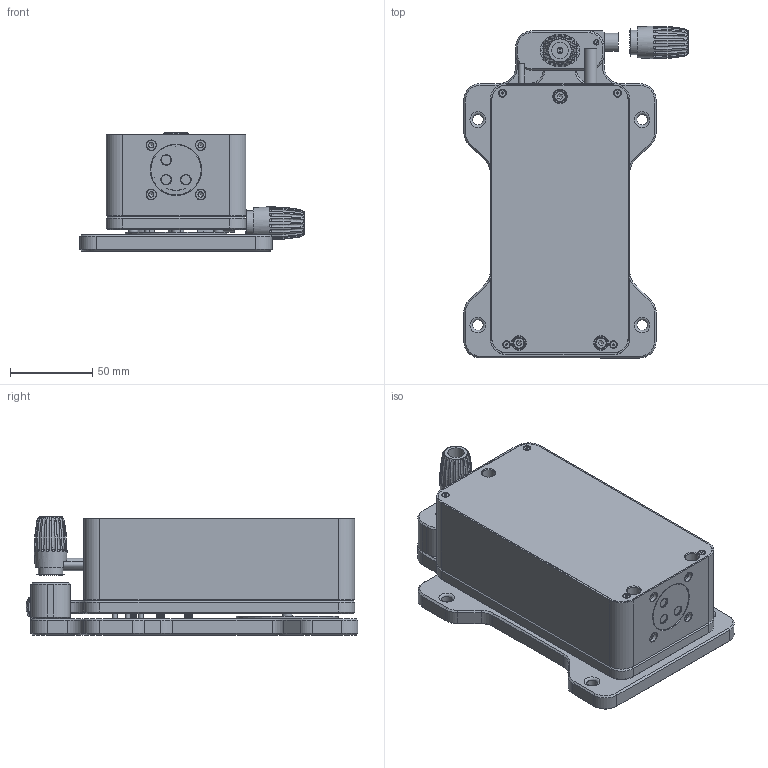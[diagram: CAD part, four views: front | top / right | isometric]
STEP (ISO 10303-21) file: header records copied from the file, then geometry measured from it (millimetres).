
FILE_DESCRIPTION(/* description */ (''),/* implementation_level */ '2;1');
FILE_NAME(/* name */ 'S:\Marketing Vertrieb\00_PRODUKTE\SP 5000 TR\07_Maßskizzen\SP-5000-TR.stp',/* time_stamp */ '2019-09-05T12:07:48+02:00',/* author */ ('IlkoRahneberg'),/* organization */ (''),/* preprocessor_version */ 'ST-DEVELOPER v17.2',/* originating_system */ 'Autodesk Inventor 2019',/* authorisation */ '');
FILE_SCHEMA (('AUTOMOTIVE_DESIGN { 1 0 10303 214 3 1 1 }'));
Products named in the file (1): SP-5000-TR
Bounding box: 136.5 x 201.98 x 71.97 mm (x, y, z)
Volume: 543853.7 mm3; surface area: 208007.2 mm2
Topology: 12 solids, 12 shells, 1152 faces, 2993 edges, 2011 vertices
Faces by surface type: plane 513, cylinder 325, cone 203, sphere 49, bspline 44, torus 18
Full cylindrical faces by diameter (mm): 0.7 x12, 1.567 x15, 1.8 x4, 2 x6, 2.013 x2, 2.4 x9, 2.459 x5, 3 x9, 3.242 x9, 3.4 x23, 3.5 x5, 3.6 x2, 4 x8, 4.134 x1, 4.4 x2, 5 x6, 5.3 x1, 5.6 x1, 6 x11, 6.5 x22, 7 x3, 7.5 x2, 8 x9, 8.5 x2, 9.5 x2, 10 x7, 11 x2, 12 x4, 14 x3, 15 x3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
Entity records: 55102 total; most frequent: CARTESIAN_POINT 25047, DIRECTION 6184, ORIENTED_EDGE 5918, EDGE_CURVE 2959, AXIS2_PLACEMENT_3D 2443, VERTEX_POINT 2017, EDGE_LOOP 1397, CIRCLE 1307
